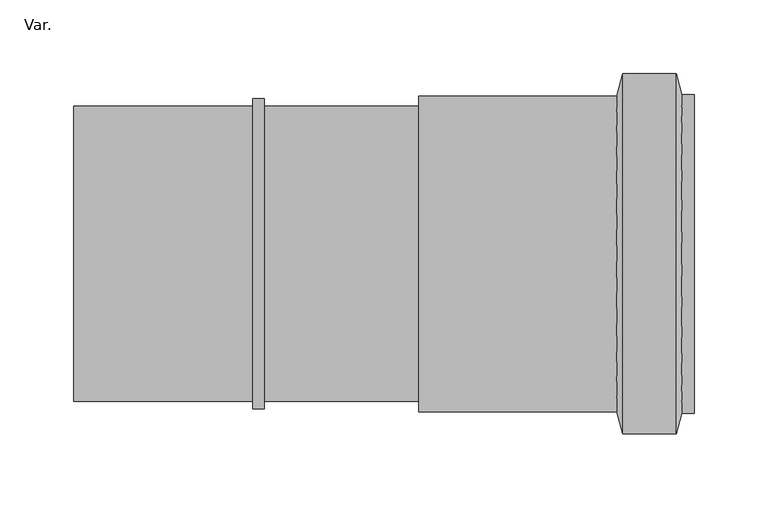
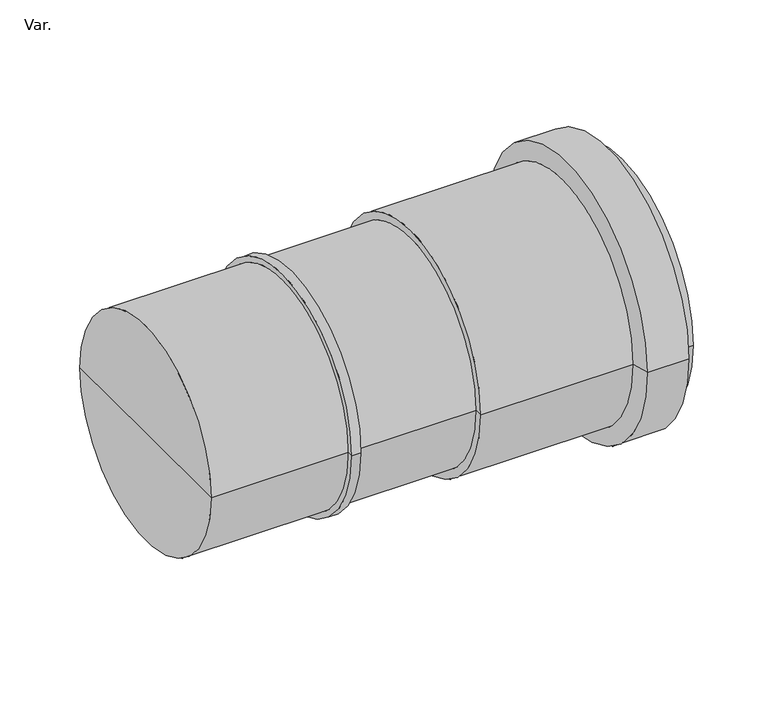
"""IFC4 building model written with IfcOpenShell, lengths in millimetres: pipe fitting geometry, NLRS_52_PIF_UN_HDPE expansion socket 200 with anchor point_Akatherm : Var.."""

from ifc_helpers import new_model, si_unit, frame, origin, place, context, project, spatial, polyline, circle_curve, source, transform, mapped, element, save
from ifc_brep_helpers import plane_surface, cylinder_surface, revolved_surface, advanced_brep


def var_6aed6b33(model_context):
    return source(origin(), model_context, "Body", "AdvancedBrep", [
        advanced_brep(
        [(-97.5, 0.0, 0.0), (-97.5, 100.0, 0.0), (-97.5, -100.0, 0.0), (322.5, -108.0, 0.0), (322.5, 108.0, 0.0), (322.5, 0.0, 0.0), (314.2, -108.0, 0.0), (314.2, 108.0, 0.0), (310.4487113, -122.0, 0.0), (310.4487113, 122.0, 0.0), (274.2192379, -122.0, 0.0), (274.2192379, 122.0, 0.0), (270.2, -107.0, 0.0), (270.2, 107.0, 0.0), (136.0, -107.0, 0.0), (136.0, 107.0, 0.0), (136.0, -100.0, 0.0), (136.0, 100.0, 0.0), (31.5, -100.0, 0.0), (31.5, 100.0, 0.0), (31.5, -105.0, 0.0), (31.5, 105.0, 0.0), (23.5, -105.0, 0.0), (23.5, 105.0, 0.0), (23.5, -100.0, 0.0), (23.5, 100.0, 0.0)],
        [
            (0, 1),
            (1, 2, circle_curve(frame((-97.5, 0.0, 0.0), z_axis=(-1.0, 0.0, 0.0), x_axis=(0.0, 1.0, 0.0)), 100.0)),
            (2, 0),
            (2, 1, circle_curve(frame((-97.5, 0.0, 0.0), z_axis=(-1.0, 0.0, 0.0), x_axis=(0.0, 1.0, 0.0)), 100.0)),
            (3, 4, circle_curve(frame((322.5, 0.0, 0.0), z_axis=(1.0, 0.0, 0.0), x_axis=(0.0, 1.0, 0.0)), 108.0)),
            (4, 5),
            (5, 3),
            (4, 3, circle_curve(frame((322.5, 0.0, 0.0), z_axis=(1.0, 0.0, 0.0), x_axis=(0.0, 1.0, 0.0)), 108.0)),
            (6, 7, circle_curve(frame((314.2, 0.0, 0.0), z_axis=(1.0, 0.0, 0.0), x_axis=(0.0, 1.0, 0.0)), 108.0)),
            (7, 4),
            (3, 6),
            (7, 6, circle_curve(frame((314.2, 0.0, 0.0), z_axis=(1.0, 0.0, 0.0), x_axis=(0.0, 1.0, 0.0)), 108.0)),
            (8, 9, circle_curve(frame((310.4487113, 0.0, 0.0), z_axis=(1.0, 0.0, 0.0), x_axis=(0.0, 1.0, 0.0)), 122.0)),
            (9, 7),
            (6, 8),
            (9, 8, circle_curve(frame((310.4487113, 0.0, 0.0), z_axis=(1.0, 0.0, 0.0), x_axis=(0.0, 1.0, 0.0)), 122.0)),
            (10, 11, circle_curve(frame((274.2192379, 0.0, 0.0), z_axis=(1.0, 0.0, 0.0), x_axis=(0.0, 1.0, 0.0)), 122.0)),
            (11, 9),
            (8, 10),
            (11, 10, circle_curve(frame((274.2192379, 0.0, 0.0), z_axis=(1.0, 0.0, 0.0), x_axis=(0.0, 1.0, 0.0)), 122.0)),
            (12, 13, circle_curve(frame((270.2, 0.0, 0.0), z_axis=(1.0, 0.0, 0.0), x_axis=(0.0, 1.0, 0.0)), 107.0)),
            (13, 11),
            (10, 12),
            (13, 12, circle_curve(frame((270.2, 0.0, 0.0), z_axis=(1.0, 0.0, 0.0), x_axis=(0.0, 1.0, 0.0)), 107.0)),
            (14, 15, circle_curve(frame((136.0, 0.0, 0.0), z_axis=(1.0, 0.0, 0.0), x_axis=(0.0, 1.0, 0.0)), 107.0)),
            (15, 13),
            (12, 14),
            (15, 14, circle_curve(frame((136.0, 0.0, 0.0), z_axis=(1.0, 0.0, 0.0), x_axis=(0.0, 1.0, 0.0)), 107.0)),
            (16, 17, circle_curve(frame((136.0, 0.0, 0.0), z_axis=(1.0, 0.0, 0.0), x_axis=(0.0, 1.0, 0.0)), 100.0)),
            (17, 15),
            (14, 16),
            (17, 16, circle_curve(frame((136.0, 0.0, 0.0), z_axis=(1.0, 0.0, 0.0), x_axis=(0.0, 1.0, 0.0)), 100.0)),
            (18, 19, circle_curve(frame((31.5, 0.0, 0.0), z_axis=(1.0, 0.0, 0.0), x_axis=(0.0, 1.0, 0.0)), 100.0)),
            (19, 17),
            (16, 18),
            (19, 18, circle_curve(frame((31.5, 0.0, 0.0), z_axis=(1.0, 0.0, 0.0), x_axis=(0.0, 1.0, 0.0)), 100.0)),
            (20, 21, circle_curve(frame((31.5, 0.0, 0.0), z_axis=(1.0, 0.0, 0.0), x_axis=(0.0, 1.0, 0.0)), 105.0)),
            (21, 19),
            (18, 20),
            (21, 20, circle_curve(frame((31.5, 0.0, 0.0), z_axis=(1.0, 0.0, 0.0), x_axis=(0.0, 1.0, 0.0)), 105.0)),
            (22, 23, circle_curve(frame((23.5, 0.0, 0.0), z_axis=(1.0, 0.0, 0.0), x_axis=(0.0, 1.0, 0.0)), 105.0)),
            (23, 21),
            (20, 22),
            (23, 22, circle_curve(frame((23.5, 0.0, 0.0), z_axis=(1.0, 0.0, 0.0), x_axis=(0.0, 1.0, 0.0)), 105.0)),
            (24, 25, circle_curve(frame((23.5, 0.0, 0.0), z_axis=(1.0, 0.0, 0.0), x_axis=(0.0, 1.0, 0.0)), 100.0)),
            (25, 23),
            (22, 24),
            (25, 24, circle_curve(frame((23.5, 0.0, 0.0), z_axis=(1.0, 0.0, 0.0), x_axis=(0.0, 1.0, 0.0)), 100.0)),
            (1, 25),
            (24, 2),
        ],
        [
            plane_surface(frame((-97.5, 0.0, 0.0), z_axis=(-1.0, 0.0, 0.0), x_axis=(0.0, 1.0, 0.0))),
            plane_surface(frame((322.5, 0.0, 0.0), z_axis=(1.0, 0.0, 0.0), x_axis=(0.0, 1.0, 0.0))),
            cylinder_surface(frame((-252.5, 0.0, 0.0), z_axis=(-1.0, 0.0, 0.0), x_axis=(0.0, 1.0, 0.0)), 108.0),
            revolved_surface(polyline([(314.2, 108.0, 0.0), (310.4487113, 122.0, 0.0)]), (-252.5, 0.0, 0.0), (-1.0, 0.0, 0.0)),
            cylinder_surface(frame((-252.5, 0.0, 0.0), z_axis=(-1.0, 0.0, 0.0), x_axis=(0.0, 1.0, 0.0)), 122.0),
            revolved_surface(polyline([(274.2192379, 122.0, 0.0), (270.2, 107.0, 0.0)]), (-252.5, 0.0, 0.0), (-1.0, 0.0, 0.0)),
            cylinder_surface(frame((-252.5, 0.0, 0.0), z_axis=(-1.0, 0.0, 0.0), x_axis=(0.0, 1.0, 0.0)), 107.0),
            plane_surface(frame((136.0, 0.0, 0.0), z_axis=(-1.0, 0.0, 0.0), x_axis=(0.0, 1.0, 0.0))),
            cylinder_surface(frame((-252.5, 0.0, 0.0), z_axis=(-1.0, 0.0, 0.0), x_axis=(0.0, 1.0, 0.0)), 100.0),
            plane_surface(frame((31.5, 0.0, 0.0), z_axis=(1.0, 0.0, 0.0), x_axis=(0.0, 1.0, 0.0))),
            cylinder_surface(frame((-252.5, 0.0, 0.0), z_axis=(-1.0, 0.0, 0.0), x_axis=(0.0, 1.0, 0.0)), 105.0),
            plane_surface(frame((23.5, 0.0, 0.0), z_axis=(-1.0, 0.0, 0.0), x_axis=(0.0, 1.0, 0.0))),
        ],
        [
            (0, [[1, 2, 3]]),
            (0, [[-3, 4, -1]]),
            (1, [[5, 6, 7]]),
            (1, [[8, -7, -6]]),
            (2, [[9, 10, -5, 11]]),
            (2, [[12, -11, -8, -10]]),
            (3, [[13, 14, -9, 15]]),
            (3, [[16, -15, -12, -14]]),
            (4, [[17, 18, -13, 19]]),
            (4, [[20, -19, -16, -18]]),
            (5, [[21, 22, -17, 23]]),
            (5, [[24, -23, -20, -22]]),
            (6, [[25, 26, -21, 27]]),
            (6, [[28, -27, -24, -26]]),
            (7, [[29, 30, -25, 31]]),
            (7, [[32, -31, -28, -30]]),
            (8, [[33, 34, -29, 35]]),
            (8, [[36, -35, -32, -34]]),
            (9, [[37, 38, -33, 39]]),
            (9, [[40, -39, -36, -38]]),
            (10, [[41, 42, -37, 43]]),
            (10, [[44, -43, -40, -42]]),
            (11, [[45, 46, -41, 47]]),
            (11, [[48, -47, -44, -46]]),
            (8, [[-2, 49, -45, 50]]),
            (8, [[-4, -50, -48, -49]]),
        ],
    ),
    ])


if __name__ == "__main__":
    model = new_model("IFC4")
    model_context = context("Model", 3, world=origin())
    ifc_project = project(units=[si_unit("LENGTHUNIT", "METRE", prefix="MILLI")], contexts=[model_context])
    site = spatial("IfcSite", under=ifc_project)
    building = spatial("IfcBuilding", under=site)
    placement = place(None, origin())
    var_shape = var_6aed6b33(model_context)
    element("IfcPipeFitting", 1, ObjectType="NLRS_52_PIF_UN_HDPE expansion socket 200 with anchor point_Akatherm : Var.", at=placement, inside=building, context=model_context, shape_type="MappedRepresentation", body=[
        mapped(var_shape, transform((0.0, 0.0, 0.0), x_axis=(1.0, 0.0, 0.0), y_axis=(0.0, 1.0, 0.0), z_axis=(0.0, 0.0, 1.0))),
    ])
    save(model, "model.ifc")
